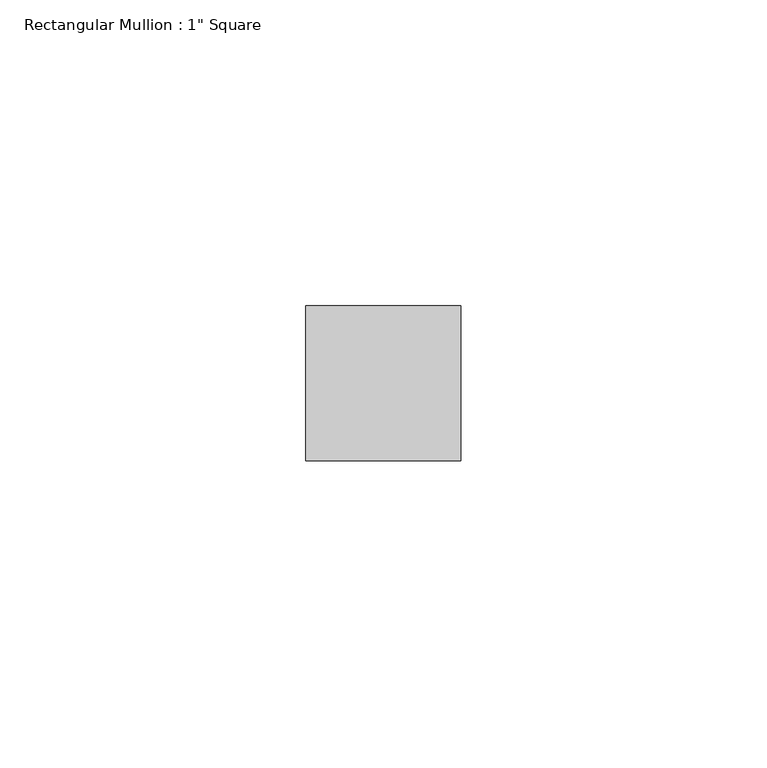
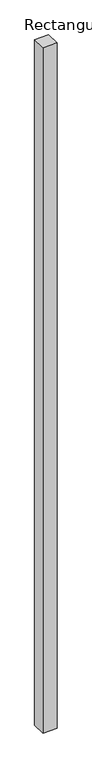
"""IFC4 building model written with IfcOpenShell, lengths in millimetres: member geometry."""

from ifc_helpers import new_model, si_unit, frame, origin, place, context, project, spatial, polyline, outline, extrude, source, transform, mapped, element, save


def member_7efd2288(model_context):
    return source(origin(), model_context, "Body", "SweptSolid", [
        extrude(outline(polyline([(12.7, 12.7), (12.7, -12.7), (-12.7, -12.7), (-12.7, 12.7), (12.7, 12.7)])), frame((0.0, 0.0, -1306.7499987), z_axis=(0.0, 0.0, 1.0), x_axis=(1.0, 0.0, 0.0)), (0.0, 0.0, 1.0), 1306.7499987),
    ])


if __name__ == "__main__":
    model = new_model("IFC4")
    model_context = context("Model", 3, world=origin())
    ifc_project = project(units=[si_unit("LENGTHUNIT", "METRE", prefix="MILLI")], contexts=[model_context])
    site = spatial("IfcSite", under=ifc_project)
    building = spatial("IfcBuilding", under=site)
    placement = place(None, origin())
    member_shape = member_7efd2288(model_context)
    element("IfcMember", 1, ObjectType="Rectangular Mullion : 1\" Square", at=placement, inside=building, context=model_context, shape_type="MappedRepresentation", body=[
        mapped(member_shape, transform((0.0, 0.0, 0.0), x_axis=(1.0, 0.0, 0.0), y_axis=(0.0, 1.0, 0.0), z_axis=(0.0, 0.0, 1.0))),
    ])
    save(model, "model.ifc")
